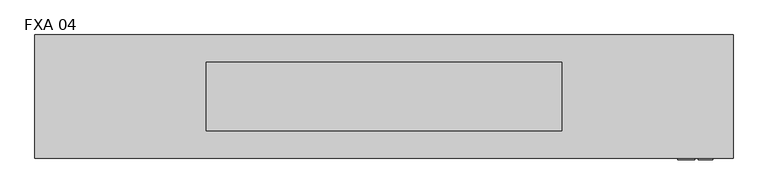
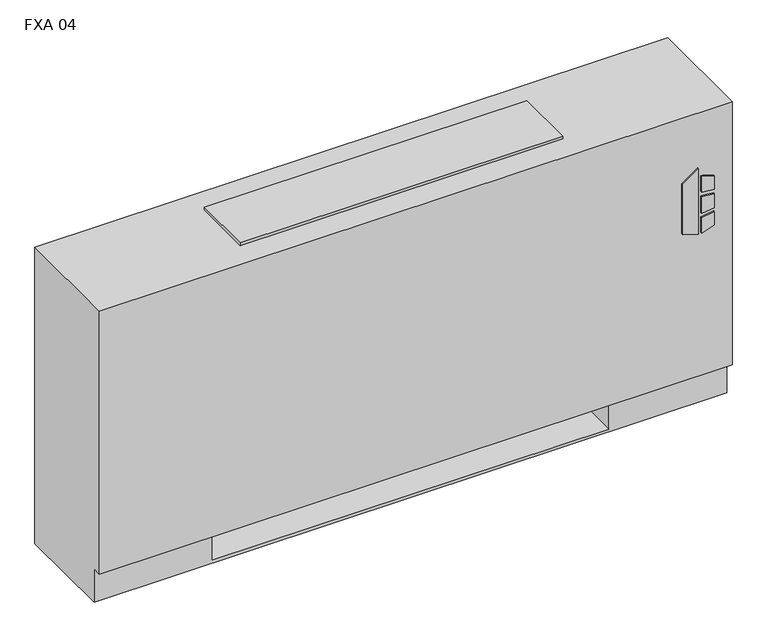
"""IFC4 building model written with IfcOpenShell, lengths in millimetres: proxy geometry, Vertical_Fan_Coil_Unit_-_FXA_-_IEC_-_4-Pipe_TS-FR_RH_2022 : FXA 04."""

from ifc_helpers import new_model, si_unit, point, frame, frame_2d, origin, place, context, project, spatial, polyline, circle_curve, trimmed, segment, composite_curve, outline, extrude, source, transform, mapped, element, save
from ifc_brep_helpers import plane_surface, revolved_surface, advanced_brep


def fxa_04_5441b333(model_context):
    return source(origin(), model_context, "Body", "SolidModel", [
        extrude(outline(polyline([(391.6086829, 696.9868862), (381.6606126, 729.1602728), (523.831537, 729.1602728), (500.8095309, 696.9868862), (391.6086829, 696.9868862)])), frame((0.0, 12.7, 0.0), z_axis=(0.0, 1.0, 0.0), x_axis=(0.0, 0.0, 1.0)), (0.0, 0.0, 1.0), 3.175),
        extrude(outline(polyline([(470.6079683, 735.9186058), (467.4055757, 762.0), (496.6344168, 762.0), (504.6988318, 735.9186058), (470.6079683, 735.9186058)])), frame((0.0, 12.7, 0.0), z_axis=(0.0, 1.0, 0.0), x_axis=(0.0, 0.0, 1.0)), (0.0, 0.0, 1.0), 3.175),
        extrude(outline(polyline([(418.7444414, 762.0), (415.0789404, 735.9186058), (381.6606126, 735.9186058), (390.2948498, 762.0), (418.7444414, 762.0)])), frame((0.0, 12.7, 0.0), z_axis=(0.0, 1.0, 0.0), x_axis=(0.0, 0.0, 1.0)), (0.0, 0.0, 1.0), 3.175),
        extrude(outline(polyline([(458.0596028, 762.0), (460.3414292, 735.9186058), (424.4038806, 735.9186058), (427.1451456, 762.0), (458.0596028, 762.0)])), frame((0.0, 12.7, 0.0), z_axis=(0.0, 1.0, 0.0), x_axis=(0.0, 0.0, 1.0)), (0.0, 0.0, 1.0), 3.175),
        extrude(outline(polyline([(-374.65, 81.534), (-374.65, 223.266), (-254.0, 223.266), (-254.0, 81.534), (-374.65, 81.534)])), frame((0.0, 0.0, 327.025), z_axis=(0.0, 0.0, 1.0), x_axis=(1.0, 0.0, 0.0)), (0.0, 0.0, 1.0), 260.35),
        extrude(outline(composite_curve([segment(trimmed(circle_curve(frame_2d((622.3, 130.175)), 9.525), [point((612.775, 130.175))], [point((631.825, 130.175))], False, "CARTESIAN"), True, "CONTINUOUS"), segment(trimmed(circle_curve(frame_2d((622.3, 130.175)), 9.525), [point((631.825, 130.175))], [point((612.775, 130.175))], False, "CARTESIAN"), True, "CONTINUOUS")], self_intersect=False)), frame((0.0, 0.0, 101.6), z_axis=(0.0, 0.0, 1.0), x_axis=(1.0, 0.0, 0.0)), (0.0, 0.0, 1.0), 25.4),
        extrude(outline(polyline([(717.55, 196.85), (717.55, 63.5), (558.8, 63.5), (558.8, 196.85), (717.55, 196.85)])), frame((0.0, 0.0, 127.0), z_axis=(0.0, 0.0, 1.0), x_axis=(1.0, 0.0, 0.0)), (0.0, 0.0, 1.0), 50.8),
        extrude(outline(composite_curve([segment(trimmed(circle_curve(frame_2d((117.475, 472.44)), 7.9375), [point((117.475, 480.3775))], [point((117.475, 464.5025))], False, "CARTESIAN"), True, "CONTINUOUS"), segment(trimmed(circle_curve(frame_2d((117.475, 472.44)), 7.9375), [point((117.475, 464.5025))], [point((117.475, 480.3775))], False, "CARTESIAN"), True, "CONTINUOUS")], self_intersect=False)), frame((558.8, 0.0, 0.0), z_axis=(1.0, 0.0, 0.0), x_axis=(0.0, 1.0, 0.0)), (0.0, 0.0, 1.0), 50.8),
        extrude(outline(composite_curve([segment(trimmed(circle_curve(frame_2d((164.0586, 445.897)), 7.9375), [point((164.0586, 453.8345))], [point((164.0586, 437.9595))], False, "CARTESIAN"), True, "CONTINUOUS"), segment(trimmed(circle_curve(frame_2d((164.0586, 445.897)), 7.9375), [point((164.0586, 437.9595))], [point((164.0586, 453.8345))], False, "CARTESIAN"), True, "CONTINUOUS")], self_intersect=False)), frame((558.8, 0.0, 0.0), z_axis=(1.0, 0.0, 0.0), x_axis=(0.0, 1.0, 0.0)), (0.0, 0.0, 1.0), 50.8),
        extrude(outline(composite_curve([segment(trimmed(circle_curve(frame_2d((201.248777, 554.99)), 7.9502), [point((201.248777, 562.9402))], [point((201.248777, 547.0398))], False, "CARTESIAN"), True, "CONTINUOUS"), segment(trimmed(circle_curve(frame_2d((201.248777, 554.99)), 7.9502), [point((201.248777, 547.0398))], [point((201.248777, 562.9402))], False, "CARTESIAN"), True, "CONTINUOUS")], self_intersect=False)), frame((558.8, 0.0, 0.0), z_axis=(1.0, 0.0, 0.0), x_axis=(0.0, 1.0, 0.0)), (0.0, 0.0, 1.0), 50.8),
        extrude(outline(composite_curve([segment(trimmed(circle_curve(frame_2d((53.975, 416.56)), 7.9502), [point((53.975, 424.5102))], [point((53.975, 408.6098))], False, "CARTESIAN"), True, "CONTINUOUS"), segment(trimmed(circle_curve(frame_2d((53.975, 416.56)), 7.9502), [point((53.975, 408.6098))], [point((53.975, 424.5102))], False, "CARTESIAN"), True, "CONTINUOUS")], self_intersect=False)), frame((558.8, 0.0, 0.0), z_axis=(1.0, 0.0, 0.0), x_axis=(0.0, 1.0, 0.0)), (0.0, 0.0, 1.0), 50.8),
        advanced_brep(
        [(800.1, 244.475, 641.35), (-495.3, 244.475, 641.35), (-495.3, 15.875, 641.35), (800.1, 15.875, 641.35), (-495.3, 244.475, 0.0), (800.1, 244.475, 0.0), (800.1, 34.925, 0.0), (-495.3, 34.925, 0.0), (558.8, 244.475, 73.025), (787.4, 244.475, 73.025), (787.4, 244.475, 628.65), (558.8, 244.475, 628.65), (558.8, 244.475, 414.8650565), (587.375, 244.475, 414.8650565), (587.375, 244.475, 385.2349435), (558.8, 244.475, 385.2349435), (558.8, 244.475, 287.3375), (587.375, 244.475, 287.3375), (587.375, 244.475, 258.7625), (558.8, 244.475, 258.7625), (558.8, 244.475, 141.2875), (587.375, 244.475, 141.2875), (587.375, 244.475, 112.7125), (558.8, 244.475, 112.7125), (-254.0, 244.475, 628.65), (-482.6, 244.475, 628.65), (-482.6, 244.475, 73.025), (-254.0, 244.475, 73.025), (-254.0, 244.475, 112.7125), (-282.575, 244.475, 112.7125), (-282.575, 244.475, 141.2875), (-254.0, 244.475, 141.2875), (-254.0, 244.475, 258.7625), (-282.575, 244.475, 258.7625), (-282.575, 244.475, 287.3375), (-254.0, 244.475, 287.3375), (-254.0, 244.475, 385.2349435), (-282.575, 244.475, 385.2349435), (-282.575, 244.475, 414.8650565), (-254.0, 244.475, 414.8650565), (577.0626, 244.475, 127.0), (565.9374, 244.475, 127.0), (577.0626, 244.475, 400.05), (565.9374, 244.475, 400.05), (577.0626, 244.475, 273.05), (565.9374, 244.475, 273.05), (-261.1374, 244.475, 127.0), (-272.2626, 244.475, 127.0), (-261.1374, 244.475, 273.05), (-272.2626, 244.475, 273.05), (-261.1374, 244.475, 400.05), (-272.2626, 244.475, 400.05), (-495.3, 34.925, 73.025), (-495.3, 15.875, 73.025), (800.1, 15.875, 73.025), (800.1, 34.925, 73.025), (-254.0, 34.925, 73.025), (-254.0, 219.075, 73.025), (558.8, 219.075, 73.025), (558.8, 34.925, 73.025), (558.8, 34.925, 6.35), (-254.0, 34.925, 6.35), (558.8, 41.275, 628.65), (787.4, 41.275, 628.65), (787.4, 41.275, 73.025), (558.8, 41.275, 73.025), (-254.0, 41.275, 628.65), (-254.0, 41.275, 73.025), (-482.6, 41.275, 73.025), (-482.6, 41.275, 628.65), (558.8, 219.075, 73.025), (558.8, 238.125, 112.7125), (558.8, 238.125, 141.2875), (558.8, 238.125, 258.7625), (558.8, 238.125, 287.3375), (558.8, 238.125, 385.2349435), (558.8, 238.125, 414.8650565), (-254.0, 219.075, 73.025), (-254.0, 238.125, 414.8650565), (-254.0, 238.125, 385.2349435), (-254.0, 238.125, 287.3375), (-254.0, 238.125, 258.7625), (-254.0, 238.125, 141.2875), (-254.0, 238.125, 112.7125), (-254.0, 219.075, 6.35), (558.8, 219.075, 6.35), (587.375, 238.125, 112.7125), (587.375, 238.125, 141.2875), (565.9374, 238.125, 127.0), (577.0626, 238.125, 127.0), (587.375, 238.125, 258.7625), (587.375, 238.125, 287.3375), (565.9374, 238.125, 273.05), (577.0626, 238.125, 273.05), (587.375, 238.125, 385.2349435), (587.375, 238.125, 414.8650565), (565.9374, 238.125, 400.05), (577.0626, 238.125, 400.05), (-282.575, 238.125, 141.2875), (-282.575, 238.125, 112.7125), (-272.2626, 238.125, 127.0), (-261.1374, 238.125, 127.0), (-282.575, 238.125, 287.3375), (-282.575, 238.125, 258.7625), (-272.2626, 238.125, 273.05), (-261.1374, 238.125, 273.05), (-282.575, 238.125, 414.8650565), (-282.575, 238.125, 385.2349435), (-272.2626, 238.125, 400.05), (-261.1374, 238.125, 400.05)],
        [
            (0, 1),
            (1, 2),
            (2, 3),
            (3, 0),
            (4, 5),
            (5, 6),
            (6, 7),
            (7, 4),
            (0, 5),
            (4, 1),
            (8, 9),
            (9, 10),
            (10, 11),
            (11, 12),
            (12, 13),
            (13, 14),
            (14, 15),
            (15, 16),
            (16, 17),
            (17, 18),
            (18, 19),
            (19, 20),
            (20, 21),
            (21, 22),
            (22, 23),
            (23, 8),
            (24, 25),
            (25, 26),
            (26, 27),
            (27, 28),
            (28, 29),
            (29, 30),
            (30, 31),
            (31, 32),
            (32, 33),
            (33, 34),
            (34, 35),
            (35, 36),
            (36, 37),
            (37, 38),
            (38, 39),
            (39, 24),
            (40, 41, circle_curve(frame((571.5, 244.475, 127.0), z_axis=(0.0, -1.0, 0.0), x_axis=(-1.0, 0.0, 0.0)), 5.5626)),
            (41, 40, circle_curve(frame((571.5, 244.475, 127.0), z_axis=(0.0, -1.0, 0.0), x_axis=(-1.0, 0.0, 0.0)), 5.5626)),
            (42, 43, circle_curve(frame((571.5, 244.475, 400.05), z_axis=(0.0, -1.0, 0.0), x_axis=(-1.0, 0.0, 0.0)), 5.5626)),
            (43, 42, circle_curve(frame((571.5, 244.475, 400.05), z_axis=(0.0, -1.0, 0.0), x_axis=(-1.0, 0.0, 0.0)), 5.5626)),
            (44, 45, circle_curve(frame((571.5, 244.475, 273.05), z_axis=(0.0, -1.0, 0.0), x_axis=(-1.0, 0.0, 0.0)), 5.5626)),
            (45, 44, circle_curve(frame((571.5, 244.475, 273.05), z_axis=(0.0, -1.0, 0.0), x_axis=(-1.0, 0.0, 0.0)), 5.5626)),
            (46, 47, circle_curve(frame((-266.7, 244.475, 127.0), z_axis=(0.0, -1.0, 0.0), x_axis=(-1.0, 0.0, 0.0)), 5.5626)),
            (47, 46, circle_curve(frame((-266.7, 244.475, 127.0), z_axis=(0.0, -1.0, 0.0), x_axis=(-1.0, 0.0, 0.0)), 5.5626)),
            (48, 49, circle_curve(frame((-266.7, 244.475, 273.05), z_axis=(0.0, -1.0, 0.0), x_axis=(-1.0, 0.0, 0.0)), 5.5626)),
            (49, 48, circle_curve(frame((-266.7, 244.475, 273.05), z_axis=(0.0, -1.0, 0.0), x_axis=(-1.0, 0.0, 0.0)), 5.5626)),
            (50, 51, circle_curve(frame((-266.7, 244.475, 400.05), z_axis=(0.0, -1.0, 0.0), x_axis=(-1.0, 0.0, 0.0)), 5.5626)),
            (51, 50, circle_curve(frame((-266.7, 244.475, 400.05), z_axis=(0.0, -1.0, 0.0), x_axis=(-1.0, 0.0, 0.0)), 5.5626)),
            (7, 52),
            (52, 53),
            (53, 2),
            (53, 54),
            (54, 3),
            (54, 55),
            (55, 6),
            (52, 56),
            (56, 57),
            (57, 58),
            (58, 59),
            (59, 55),
            (59, 60),
            (60, 61),
            (61, 56),
            (62, 63),
            (63, 64),
            (64, 65),
            (65, 62),
            (66, 67),
            (67, 68),
            (68, 69),
            (69, 66),
            (65, 70),
            (70, 8),
            (23, 71),
            (71, 72),
            (72, 20),
            (19, 73),
            (73, 74),
            (74, 16),
            (15, 75),
            (75, 76),
            (76, 12),
            (11, 62),
            (64, 9),
            (63, 10),
            (69, 25),
            (24, 66),
            (68, 26),
            (67, 77),
            (77, 27),
            (39, 78),
            (78, 79),
            (79, 36),
            (35, 80),
            (80, 81),
            (81, 32),
            (31, 82),
            (82, 83),
            (83, 28),
            (57, 84),
            (84, 85),
            (85, 58),
            (85, 60),
            (84, 61),
            (71, 86),
            (86, 87),
            (87, 72),
            (88, 89, circle_curve(frame((571.5, 238.125, 127.0), z_axis=(0.0, 1.0, 0.0), x_axis=(-1.0, 0.0, 0.0)), 5.5626)),
            (89, 88, circle_curve(frame((571.5, 238.125, 127.0), z_axis=(0.0, 1.0, 0.0), x_axis=(-1.0, 0.0, 0.0)), 5.5626)),
            (73, 90),
            (90, 91),
            (91, 74),
            (92, 93, circle_curve(frame((571.5, 238.125, 273.05), z_axis=(0.0, 1.0, 0.0), x_axis=(-1.0, 0.0, 0.0)), 5.5626)),
            (93, 92, circle_curve(frame((571.5, 238.125, 273.05), z_axis=(0.0, 1.0, 0.0), x_axis=(-1.0, 0.0, 0.0)), 5.5626)),
            (75, 94),
            (94, 95),
            (95, 76),
            (96, 97, circle_curve(frame((571.5, 238.125, 400.05), z_axis=(0.0, 1.0, 0.0), x_axis=(-1.0, 0.0, 0.0)), 5.5626)),
            (97, 96, circle_curve(frame((571.5, 238.125, 400.05), z_axis=(0.0, 1.0, 0.0), x_axis=(-1.0, 0.0, 0.0)), 5.5626)),
            (98, 99),
            (99, 83),
            (82, 98),
            (100, 101, circle_curve(frame((-266.7, 238.125, 127.0), z_axis=(0.0, 1.0, 0.0), x_axis=(-1.0, 0.0, 0.0)), 5.5626)),
            (101, 100, circle_curve(frame((-266.7, 238.125, 127.0), z_axis=(0.0, 1.0, 0.0), x_axis=(-1.0, 0.0, 0.0)), 5.5626)),
            (102, 103),
            (103, 81),
            (80, 102),
            (104, 105, circle_curve(frame((-266.7, 238.125, 273.05), z_axis=(0.0, 1.0, 0.0), x_axis=(-1.0, 0.0, 0.0)), 5.5626)),
            (105, 104, circle_curve(frame((-266.7, 238.125, 273.05), z_axis=(0.0, 1.0, 0.0), x_axis=(-1.0, 0.0, 0.0)), 5.5626)),
            (106, 107),
            (107, 79),
            (78, 106),
            (108, 109, circle_curve(frame((-266.7, 238.125, 400.05), z_axis=(0.0, 1.0, 0.0), x_axis=(-1.0, 0.0, 0.0)), 5.5626)),
            (109, 108, circle_curve(frame((-266.7, 238.125, 400.05), z_axis=(0.0, 1.0, 0.0), x_axis=(-1.0, 0.0, 0.0)), 5.5626)),
            (87, 21),
            (86, 22),
            (91, 17),
            (90, 18),
            (95, 13),
            (94, 14),
            (30, 98),
            (99, 29),
            (34, 102),
            (103, 33),
            (38, 106),
            (107, 37),
            (88, 41),
            (40, 89),
            (96, 43),
            (42, 97),
            (92, 45),
            (44, 93),
            (100, 47),
            (46, 101),
            (104, 49),
            (48, 105),
            (108, 51),
            (50, 109),
        ],
        [
            plane_surface(frame((-495.3, 244.475, 641.35), z_axis=(0.0, 0.0, 1.0), x_axis=(-1.0, 0.0, 0.0))),
            plane_surface(frame((-495.3, 244.475, 0.0), z_axis=(0.0, 0.0, -1.0), x_axis=(1.0, 0.0, 0.0))),
            plane_surface(frame((800.1, 244.475, 641.35), z_axis=(0.0, 1.0, 0.0), x_axis=(0.0, 0.0, -1.0))),
            plane_surface(frame((-495.3, 244.475, 641.35), z_axis=(-1.0, 0.0, 0.0), x_axis=(0.0, 0.0, -1.0))),
            plane_surface(frame((-495.3, 15.875, 641.35), z_axis=(0.0, -1.0, 0.0), x_axis=(0.0, 0.0, -1.0))),
            plane_surface(frame((800.1, 15.875, 641.35), z_axis=(1.0, 0.0, 0.0), x_axis=(0.0, 0.0, -1.0))),
            plane_surface(frame((-495.3, 15.875, 73.025), z_axis=(0.0, 0.0, -1.0), x_axis=(1.0, 0.0, 0.0))),
            plane_surface(frame((-495.3, 34.925, 73.025), z_axis=(0.0, -1.0, 0.0), x_axis=(1.0, 0.0, 0.0))),
            plane_surface(frame((558.8, 41.275, 628.65), z_axis=(0.0, 1.0, 0.0), x_axis=(0.0, 0.0, -1.0))),
            plane_surface(frame((558.8, 41.275, 628.65), z_axis=(1.0, 0.0, 0.0), x_axis=(0.0, 1.0, 0.0))),
            plane_surface(frame((558.8, 41.275, 73.025), z_axis=(0.0, 0.0, 1.0), x_axis=(0.0, 1.0, 0.0))),
            plane_surface(frame((787.4, 41.275, 73.025), z_axis=(-1.0, 0.0, 0.0), x_axis=(0.0, 1.0, 0.0))),
            plane_surface(frame((787.4, 41.275, 628.65), z_axis=(0.0, 0.0, -1.0), x_axis=(0.0, 1.0, 0.0))),
            plane_surface(frame((-254.0, 41.275, 628.65), z_axis=(0.0, 0.0, -1.0), x_axis=(0.0, 1.0, 0.0))),
            plane_surface(frame((-482.6, 41.275, 628.65), z_axis=(1.0, 0.0, 0.0), x_axis=(0.0, 1.0, 0.0))),
            plane_surface(frame((-482.6, 41.275, 73.025), z_axis=(0.0, 0.0, 1.0), x_axis=(0.0, 1.0, 0.0))),
            plane_surface(frame((-254.0, 41.275, 73.025), z_axis=(-1.0, 0.0, 0.0), x_axis=(0.0, 1.0, 0.0))),
            plane_surface(frame((558.8, 219.075, 73.025), z_axis=(0.0, -1.0, 0.0), x_axis=(0.0, 0.0, -1.0))),
            plane_surface(frame((558.8, 219.075, 73.025), z_axis=(-1.0, 0.0, 0.0), x_axis=(0.0, -1.0, 0.0))),
            plane_surface(frame((558.8, 219.075, 6.35), z_axis=(0.0, 0.0, 1.0), x_axis=(0.0, -1.0, 0.0))),
            plane_surface(frame((-254.0, 219.075, 6.35), z_axis=(1.0, 0.0, 0.0), x_axis=(0.0, -1.0, 0.0))),
            plane_surface(frame((587.375, 238.125, 141.2875), z_axis=(0.0, -1.0, 0.0), x_axis=(-1.0, 0.0, 0.0))),
            plane_surface(frame((558.8, 244.475, 141.2875), z_axis=(0.0, 0.0, 1.0), x_axis=(0.0, -1.0, 0.0))),
            plane_surface(frame((587.375, 244.475, 141.2875), z_axis=(1.0, 0.0, 0.0), x_axis=(0.0, -1.0, 0.0))),
            plane_surface(frame((587.375, 244.475, 112.7125), z_axis=(0.0, 0.0, -1.0), x_axis=(0.0, -1.0, 0.0))),
            plane_surface(frame((558.8, 244.475, 287.3375), z_axis=(0.0, 0.0, 1.0), x_axis=(0.0, -1.0, 0.0))),
            plane_surface(frame((587.375, 244.475, 287.3375), z_axis=(1.0, 0.0, 0.0), x_axis=(0.0, -1.0, 0.0))),
            plane_surface(frame((587.375, 244.475, 258.7625), z_axis=(0.0, 0.0, -1.0), x_axis=(0.0, -1.0, 0.0))),
            plane_surface(frame((558.8, 244.475, 414.8650565), z_axis=(0.0, 0.0, 1.0), x_axis=(0.0, -1.0, 0.0))),
            plane_surface(frame((587.375, 244.475, 414.8650565), z_axis=(1.0, 0.0, 0.0), x_axis=(0.0, -1.0, 0.0))),
            plane_surface(frame((587.375, 244.475, 385.2349435), z_axis=(0.0, 0.0, -1.0), x_axis=(0.0, -1.0, 0.0))),
            plane_surface(frame((-282.575, 244.475, 141.2875), z_axis=(0.0, 0.0, 1.0), x_axis=(0.0, -1.0, 0.0))),
            plane_surface(frame((-254.0, 244.475, 112.7125), z_axis=(0.0, 0.0, -1.0), x_axis=(0.0, -1.0, 0.0))),
            plane_surface(frame((-282.575, 244.475, 112.7125), z_axis=(-1.0, 0.0, 0.0), x_axis=(0.0, -1.0, 0.0))),
            plane_surface(frame((-282.575, 244.475, 287.3375), z_axis=(0.0, 0.0, 1.0), x_axis=(0.0, -1.0, 0.0))),
            plane_surface(frame((-254.0, 244.475, 258.7625), z_axis=(0.0, 0.0, -1.0), x_axis=(0.0, -1.0, 0.0))),
            plane_surface(frame((-282.575, 244.475, 258.7625), z_axis=(-1.0, 0.0, 0.0), x_axis=(0.0, -1.0, 0.0))),
            plane_surface(frame((-282.575, 244.475, 414.8650565), z_axis=(0.0, 0.0, 1.0), x_axis=(0.0, -1.0, 0.0))),
            plane_surface(frame((-254.0, 244.475, 385.2349435), z_axis=(0.0, 0.0, -1.0), x_axis=(0.0, -1.0, 0.0))),
            plane_surface(frame((-282.575, 244.475, 385.2349435), z_axis=(-1.0, 0.0, 0.0), x_axis=(0.0, -1.0, 0.0))),
            revolved_surface(polyline([(565.9374, 238.125, 127.0), (565.9374, 244.475, 127.0)]), (571.5, 244.475, 127.0), (0.0, -1.0, 0.0)),
            revolved_surface(polyline([(565.9374, 238.125, 400.05), (565.9374, 244.475, 400.05)]), (571.5, 244.475, 400.05), (0.0, -1.0, 0.0)),
            revolved_surface(polyline([(565.9374, 238.125, 273.05), (565.9374, 244.475, 273.05)]), (571.5, 244.475, 273.05), (0.0, -1.0, 0.0)),
            revolved_surface(polyline([(-272.26259999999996, 238.125, 127.0), (-272.26259999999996, 244.475, 127.0)]), (-266.7, 244.475, 127.0), (0.0, -1.0, 0.0)),
            revolved_surface(polyline([(-272.26259999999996, 238.125, 273.05), (-272.26259999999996, 244.475, 273.05)]), (-266.7, 244.475, 273.05), (0.0, -1.0, 0.0)),
            revolved_surface(polyline([(-272.26259999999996, 238.125, 400.05), (-272.26259999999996, 244.475, 400.05)]), (-266.7, 244.475, 400.05), (0.0, -1.0, 0.0)),
        ],
        [
            (0, [[1, 2, 3, 4]]),
            (1, [[5, 6, 7, 8]]),
            (2, [[-1, 9, -5, 10], [11, 12, 13, 14, 15, 16, 17, 18, 19, 20, 21, 22, 23, 24, 25, 26], [27, 28, 29, 30, 31, 32, 33, 34, 35, 36, 37, 38, 39, 40, 41, 42], [43, 44], [45, 46], [47, 48], [49, 50], [51, 52], [53, 54]]),
            (3, [[-2, -10, -8, 55, 56, 57]]),
            (4, [[-3, -57, 58, 59]]),
            (5, [[-4, -59, 60, 61, -6, -9]]),
            (6, [[-56, 62, 63, 64, 65, 66, -60, -58]]),
            (7, [[-7, -61, -66, 67, 68, 69, -62, -55]]),
            (8, [[70, 71, 72, 73]]),
            (8, [[74, 75, 76, 77]]),
            (9, [[-73, 78, 79, -26, 80, 81, 82, -22, 83, 84, 85, -18, 86, 87, 88, -14, 89]]),
            (10, [[-72, 90, -11, -79, -78]]),
            (11, [[-71, 91, -12, -90]]),
            (12, [[-70, -89, -13, -91]]),
            (13, [[-77, 92, -27, 93]]),
            (14, [[-76, 94, -28, -92]]),
            (15, [[-75, 95, 96, -29, -94]]),
            (16, [[-74, -93, -42, 97, 98, 99, -38, 100, 101, 102, -34, 103, 104, 105, -30, -96, -95]]),
            (17, [[-64, 106, 107, 108]]),
            (18, [[-108, 109, -67, -65]]),
            (19, [[-107, 110, -68, -109]]),
            (20, [[-106, -63, -69, -110]]),
            (21, [[111, 112, 113, -81], [114, 115]]),
            (21, [[116, 117, 118, -84], [119, 120]]),
            (21, [[121, 122, 123, -87], [124, 125]]),
            (21, [[126, 127, -104, 128], [129, 130]]),
            (21, [[131, 132, -101, 133], [134, 135]]),
            (21, [[136, 137, -98, 138], [139, 140]]),
            (22, [[-113, 141, -23, -82]]),
            (23, [[-112, 142, -24, -141]]),
            (24, [[-111, -80, -25, -142]]),
            (25, [[-118, 143, -19, -85]]),
            (26, [[-117, 144, -20, -143]]),
            (27, [[-116, -83, -21, -144]]),
            (28, [[-123, 145, -15, -88]]),
            (29, [[-122, 146, -16, -145]]),
            (30, [[-121, -86, -17, -146]]),
            (31, [[-128, -103, -33, 147]]),
            (32, [[-127, 148, -31, -105]]),
            (33, [[-126, -147, -32, -148]]),
            (34, [[-133, -100, -37, 149]]),
            (35, [[-132, 150, -35, -102]]),
            (36, [[-131, -149, -36, -150]]),
            (37, [[-138, -97, -41, 151]]),
            (38, [[-137, 152, -39, -99]]),
            (39, [[-136, -151, -40, -152]]),
            (40, [[153, -43, 154, -114]]),
            (40, [[-153, -115, -154, -44]]),
            (41, [[155, -45, 156, -124]]),
            (41, [[-155, -125, -156, -46]]),
            (42, [[157, -47, 158, -119]]),
            (42, [[-157, -120, -158, -48]]),
            (43, [[159, -49, 160, -129]]),
            (43, [[-159, -130, -160, -50]]),
            (44, [[161, -51, 162, -134]]),
            (44, [[-161, -135, -162, -52]]),
            (45, [[163, -53, 164, -139]]),
            (45, [[-163, -140, -164, -54]]),
        ],
    ),
        extrude(outline(polyline([(482.6, 193.675), (482.6, 66.675), (-177.8, 66.675), (-177.8, 193.675), (482.6, 193.675)])), frame((0.0, 0.0, 641.35), z_axis=(0.0, 0.0, 1.0), x_axis=(1.0, 0.0, 0.0)), (0.0, 0.0, 1.0), 6.35),
    ])


if __name__ == "__main__":
    model = new_model("IFC4")
    model_context = context("Model", 3, world=origin())
    ifc_project = project(units=[si_unit("LENGTHUNIT", "METRE", prefix="MILLI")], contexts=[model_context])
    site = spatial("IfcSite", under=ifc_project)
    building = spatial("IfcBuilding", under=site)
    placement = place(None, origin())
    fxa_04_shape = fxa_04_5441b333(model_context)
    element("IfcBuildingElementProxy", 1, Name="Vertical_Fan_Coil_Unit_-_FXA_-_IEC_-_4-Pipe_TS-FR_RH_2022 : FXA 04", ObjectType="Vertical_Fan_Coil_Unit_-_FXA_-_IEC_-_4-Pipe_TS-FR_RH_2022 : FXA 04", at=placement, inside=building, context=model_context, shape_type="MappedRepresentation", body=[
        mapped(fxa_04_shape, transform((0.0, 0.0, 0.0), x_axis=(1.0, 0.0, 0.0), y_axis=(0.0, 1.0, 0.0), z_axis=(0.0, 0.0, 1.0))),
    ])
    save(model, "model.ifc")
